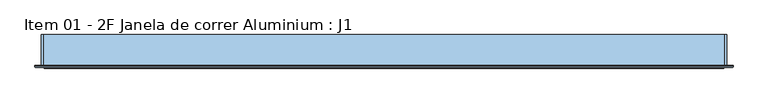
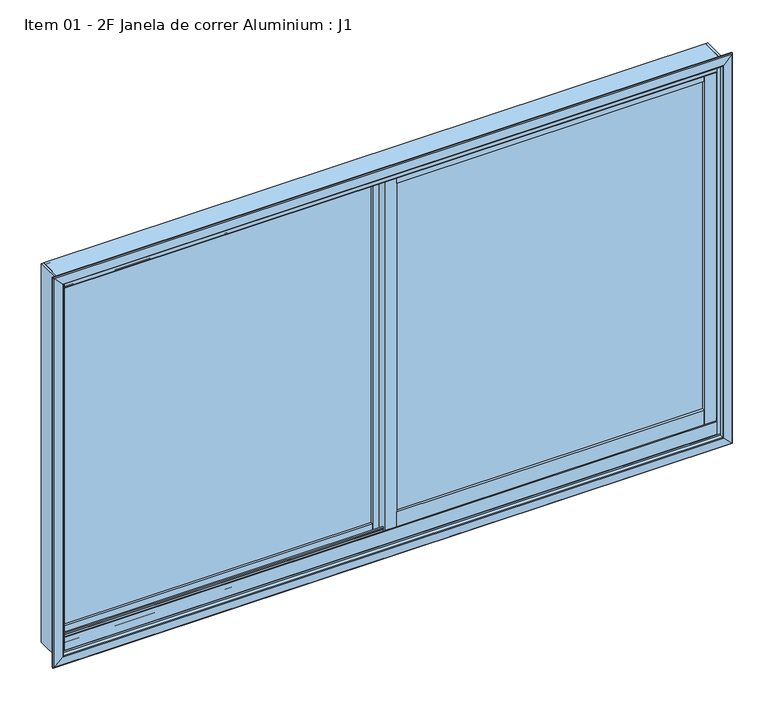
"""IFC4 building model written with IfcOpenShell, lengths in millimetres: window geometry, Item 01 - 2F Janela de correr Aluminium : J1."""

from ifc_helpers import new_model, si_unit, frame, origin, place, context, project, spatial, polyline, circle_curve, ellipse_curve, outline, extrude, source, transform, mapped, element, save
from ifc_brep_helpers import plane_surface, cylinder_surface, revolved_surface, advanced_brep


def item_01_2f_janela_de_correr_aluminium_j1_7eaab267(model_context):
    return source(origin(), model_context, "Body", "SolidModel", [
        extrude(outline(polyline([(-27.3998339, -35.3), (-27.3998339, -39.3), (-954.750983, -39.3), (-954.750983, -35.3), (-27.3998339, -35.3)])), frame((0.0, 0.0, 857.0), z_axis=(0.0, 0.0, 1.0), x_axis=(1.0, 0.0, 0.0)), (0.0, 0.0, 1.0), 1080.5),
        extrude(outline(polyline([(27.2998339, -70.9), (27.2998339, -66.9), (948.868646, -66.9), (948.868646, -70.9), (27.2998339, -70.9)])), frame((0.0, 0.0, 895.5), z_axis=(0.0, 0.0, 1.0), x_axis=(1.0, 0.0, 0.0)), (0.0, 0.0, 1.0), 1042.0),
        extrude(outline(polyline([(948.868646, -58.9), (948.868646, -78.9), (27.2998339, -78.9), (27.2998339, -58.9), (948.868646, -58.9)])), frame((0.0, 0.0, 847.9996573), z_axis=(0.0, 0.0, 1.0), x_axis=(1.0, 0.0, 0.0)), (0.0, 0.0, 1.0), 47.5003427),
        extrude(outline(polyline([(948.868646, -58.9), (948.868646, -78.9), (27.2998339, -78.9), (27.2998339, -58.9), (948.868646, -58.9)])), frame((0.0, 0.0, 1937.4996573), z_axis=(0.0, 0.0, 1.0), x_axis=(1.0, 0.0, 0.0)), (0.0, 0.0, 1.0), 34.5),
        extrude(outline(polyline([(-27.3998339, -27.3), (-27.3998339, -47.3), (-954.750983, -47.3), (-954.750983, -27.3), (-27.3998339, -27.3)])), frame((0.0, 0.0, 821.0), z_axis=(0.0, 0.0, 1.0), x_axis=(1.0, 0.0, 0.0)), (0.0, 0.0, 1.0), 36.0),
        extrude(outline(polyline([(-27.3998339, -27.3), (-27.3998339, -47.3), (-954.750983, -47.3), (-954.750983, -27.3), (-27.3998339, -27.3)])), frame((0.0, 0.0, 1937.5), z_axis=(0.0, 0.0, 1.0), x_axis=(1.0, 0.0, 0.0)), (0.0, 0.0, 1.0), 34.5),
        extrude(outline(polyline([(-954.750983, -47.3), (-993.0, -47.3), (-993.0, -27.3), (-954.750983, -27.3), (-954.750983, -47.3)])), frame((0.0, 0.0, 821.0), z_axis=(0.0, 0.0, 1.0), x_axis=(1.0, 0.0, 0.0)), (0.0, 0.0, 1.0), 1151.0),
        extrude(outline(polyline([(-27.3998339, -47.3), (-27.3998339, -27.3), (7.6001661, -27.3), (7.6001661, -58.9), (27.2998339, -58.9), (27.2998339, -78.9), (-7.6001661, -78.9), (-7.6001661, -47.3), (-27.3998339, -47.3)])), frame((0.0, 0.0, 821.0), z_axis=(0.0, 0.0, 1.0), x_axis=(1.0, 0.0, 0.0)), (0.0, 0.0, 1.0), 1151.0),
        extrude(outline(polyline([(993.0, -78.9), (948.868646, -78.9), (948.868646, -58.9), (993.0, -58.9), (993.0, -78.9)])), frame((0.0, 0.0, 821.0), z_axis=(0.0, 0.0, 1.0), x_axis=(1.0, 0.0, 0.0)), (0.0, 0.0, 1.0), 1151.0),
        advanced_brep(
        [(-992.5998339, -16.4379035, 810.2470077), (-992.5998339, -16.4379035, 801.4000436), (-992.5998339, -11.399999, 801.4000436), (-992.5998339, -11.399999, 807.4000364), (-992.5998339, -10.0000007, 807.4000364), (-992.5998339, -10.0, 800.0), (-992.5998339, -100.0, 800.0), (-992.5998339, -100.0, 807.4000364), (-992.5998339, -98.6000017, 807.4000364), (-992.5998339, -98.6000017, 801.3999983), (-992.5998339, -93.6000077, 801.3999983), (-992.5998339, -93.6000077, 815.5000406), (-992.5998339, -91.9001002, 815.5000406), (-992.5998339, -91.9002002, 855.4959852), (-992.5998339, -88.9002108, 855.4999745), (-992.5998339, -88.9002039, 852.9999952), (-992.5998339, -90.5001025, 852.0762974), (-992.5998339, -90.4999102, 840.5017467), (-992.5998339, -89.5522917, 839.4937615), (-992.5998339, -67.5000392, 838.337999), (-992.5998339, -67.5000392, 852.496362), (-992.5998339, -69.7000484, 852.496362), (-992.5998339, -69.7000484, 848.6999865), (-992.5998339, -71.1007067, 848.6999865), (-992.5998339, -71.1007067, 852.4947997), (-992.5998339, -66.099933, 852.4947997), (-992.5998339, -66.099933, 838.2646991), (-992.5998339, -64.464205, 838.1789418), (-992.5998339, -60.731283, 834.861102), (-992.5998339, -57.3590937, 815.7367048), (-992.5998339, -54.9346709, 813.5917613), (-992.5998339, -39.4999651, 812.7828298), (-992.5998339, -39.4999651, 825.4891381), (-992.5998339, -34.4999947, 825.4999956), (-992.5998339, -34.4999711, 821.7000191), (-992.5998339, -35.8999694, 821.7000191), (-992.5998339, -35.8999694, 825.4963945), (-992.5998339, -38.0999825, 825.4963945), (-992.5998339, -38.0999825, 812.7095299), (-992.5998339, -17.7702407, 811.6448774), (992.5998339, -16.4379035, 810.2470077), (992.5998339, -16.4379035, 801.4000436), (992.5998339, -11.399999, 801.4000436), (992.5998339, -11.399999, 807.4000364), (992.5998339, -10.0000007, 807.4000364), (992.5998339, -10.0, 800.0), (992.5998339, -100.0, 800.0), (992.5998339, -100.0, 807.4000364), (992.5998339, -98.6000017, 807.4000364), (992.5998339, -98.6000017, 801.3999983), (992.5998339, -93.6000077, 801.3999983), (992.5998339, -93.6000077, 815.5000406), (992.5998339, -91.9001002, 815.5000406), (992.5998339, -91.9002002, 855.4959852), (992.5998339, -88.9002108, 855.4999745), (992.5998339, -88.9002039, 852.9999952), (992.5998339, -90.5001025, 852.0762974), (992.5998339, -90.4999102, 840.5017467), (992.5998339, -89.5522917, 839.4937615), (992.5998339, -67.5000392, 838.337999), (992.5998339, -67.5000392, 852.496362), (992.5998339, -69.7000484, 852.496362), (992.5998339, -69.7000484, 848.6999865), (992.5998339, -71.1007067, 848.6999865), (992.5998339, -71.1007067, 852.4947997), (992.5998339, -66.099933, 852.4947997), (992.5998339, -66.099933, 838.2646991), (992.5998339, -64.464205, 838.1789418), (992.5998339, -60.731283, 834.861102), (992.5998339, -57.3590937, 815.7367048), (992.5998339, -54.9346709, 813.5917613), (992.5998339, -39.4999651, 812.7828298), (992.5998339, -39.4999651, 825.4891381), (992.5998339, -34.4999947, 825.4999956), (992.5998339, -34.4999711, 821.7000191), (992.5998339, -35.8999694, 821.7000191), (992.5998339, -35.8999694, 825.4963945), (992.5998339, -38.0999825, 825.4963945), (992.5998339, -38.0999825, 812.7095299), (992.5998339, -17.7702407, 811.6448774)],
        [
            (0, 1),
            (1, 2),
            (2, 3),
            (3, 4),
            (4, 5),
            (5, 6),
            (6, 7),
            (7, 8),
            (8, 9),
            (9, 10),
            (10, 11),
            (11, 12),
            (12, 13),
            (13, 14, circle_curve(frame((-992.5998339, -90.4002082, 855.4999743), z_axis=(-1.0, 0.0, 0.0), x_axis=(0.0, 0.0, 1.0)), 1.4999974)),
            (14, 15),
            (15, 16),
            (16, 17),
            (17, 18, circle_curve(frame((-992.5998339, -89.4999552, 840.4923898), z_axis=(1.0, 0.0, 0.0), x_axis=(0.0, 0.0, 1.0)), 0.9999988)),
            (18, 19),
            (19, 20),
            (20, 21, circle_curve(frame((-992.5998339, -68.6000438, 852.496362), z_axis=(1.0, 0.0, 0.0), x_axis=(0.0, 0.0, 1.0)), 1.1000046)),
            (21, 22),
            (22, 23, circle_curve(frame((-992.5998339, -70.4003775, 848.6999865), z_axis=(-1.0, 0.0, 0.0), x_axis=(0.0, 0.0, 1.0)), 0.7003292)),
            (23, 24),
            (24, 25, circle_curve(frame((-992.5998339, -68.6003199, 852.4947997), z_axis=(-1.0, 0.0, 0.0), x_axis=(0.0, 0.0, 1.0)), 2.5003869)),
            (25, 26),
            (26, 27),
            (27, 28, circle_curve(frame((-992.5998339, -64.6736275, 834.1844326), z_axis=(-1.0, 0.0, 0.0), x_axis=(0.0, 0.0, 1.0)), 3.9999952)),
            (28, 29),
            (29, 30, circle_curve(frame((-992.5998339, -54.7985976, 816.188195), z_axis=(1.0, 0.0, 0.0), x_axis=(0.0, 0.0, 1.0)), 2.5999969)),
            (30, 31),
            (31, 32),
            (32, 33, circle_curve(frame((-992.5998339, -36.9999917, 825.4999955), z_axis=(-1.0, 0.0, 0.0), x_axis=(0.0, 0.0, 1.0)), 2.499997)),
            (33, 34),
            (34, 35, circle_curve(frame((-992.5998339, -35.1999703, 821.7000191), z_axis=(-1.0, 0.0, 0.0), x_axis=(0.0, 0.0, 1.0)), 0.6999992)),
            (35, 36),
            (36, 37, circle_curve(frame((-992.5998339, -36.9999759, 825.4963945), z_axis=(1.0, 0.0, 0.0), x_axis=(0.0, 0.0, 1.0)), 1.1000065)),
            (37, 38),
            (38, 39),
            (39, 0, circle_curve(frame((-992.5998339, -17.8373848, 810.2470077), z_axis=(-1.0, 0.0, 0.0), x_axis=(0.0, 0.0, 1.0)), 1.3994814)),
            (0, 40),
            (40, 41),
            (41, 1),
            (41, 42),
            (42, 2),
            (42, 43),
            (43, 3),
            (43, 44),
            (44, 4),
            (44, 45),
            (45, 5),
            (45, 46),
            (46, 6),
            (46, 47),
            (47, 7),
            (47, 48),
            (48, 8),
            (48, 49),
            (49, 9),
            (49, 50),
            (50, 10),
            (50, 51),
            (51, 11),
            (51, 52),
            (52, 12),
            (52, 53),
            (53, 13),
            (53, 54, circle_curve(frame((992.5998339, -90.4002082, 855.4999743), z_axis=(-1.0, 0.0, 0.0), x_axis=(0.0, 0.0, 1.0)), 1.4999974)),
            (54, 14),
            (54, 55),
            (55, 15),
            (55, 56),
            (56, 16),
            (56, 57),
            (57, 17),
            (57, 58, circle_curve(frame((992.5998339, -89.4999552, 840.4923898), z_axis=(1.0, 0.0, 0.0), x_axis=(0.0, 0.0, 1.0)), 0.9999988)),
            (58, 18),
            (58, 59),
            (59, 19),
            (59, 60),
            (60, 20),
            (60, 61, circle_curve(frame((992.5998339, -68.6000438, 852.496362), z_axis=(1.0, 0.0, 0.0), x_axis=(0.0, 0.0, 1.0)), 1.1000046)),
            (61, 21),
            (61, 62),
            (62, 22),
            (62, 63, circle_curve(frame((992.5998339, -70.4003775, 848.6999865), z_axis=(-1.0, 0.0, 0.0), x_axis=(0.0, 0.0, 1.0)), 0.7003292)),
            (63, 23),
            (63, 64),
            (64, 24),
            (64, 65, circle_curve(frame((992.5998339, -68.6003199, 852.4947997), z_axis=(-1.0, 0.0, 0.0), x_axis=(0.0, 0.0, 1.0)), 2.5003869)),
            (65, 25),
            (65, 66),
            (66, 26),
            (66, 67),
            (67, 27),
            (67, 68, circle_curve(frame((992.5998339, -64.6736275, 834.1844326), z_axis=(-1.0, 0.0, 0.0), x_axis=(0.0, 0.0, 1.0)), 3.9999952)),
            (68, 28),
            (68, 69),
            (69, 29),
            (69, 70, circle_curve(frame((992.5998339, -54.7985976, 816.188195), z_axis=(1.0, 0.0, 0.0), x_axis=(0.0, 0.0, 1.0)), 2.5999969)),
            (70, 30),
            (70, 71),
            (71, 31),
            (71, 72),
            (72, 32),
            (72, 73, circle_curve(frame((992.5998339, -36.9999917, 825.4999955), z_axis=(-1.0, 0.0, 0.0), x_axis=(0.0, 0.0, 1.0)), 2.499997)),
            (73, 33),
            (73, 74),
            (74, 34),
            (74, 75, circle_curve(frame((992.5998339, -35.1999703, 821.7000191), z_axis=(-1.0, 0.0, 0.0), x_axis=(0.0, 0.0, 1.0)), 0.6999992)),
            (75, 35),
            (75, 76),
            (76, 36),
            (76, 77, circle_curve(frame((992.5998339, -36.9999759, 825.4963945), z_axis=(1.0, 0.0, 0.0), x_axis=(0.0, 0.0, 1.0)), 1.1000065)),
            (77, 37),
            (77, 78),
            (78, 38),
            (78, 79),
            (79, 39),
            (79, 40, circle_curve(frame((992.5998339, -17.8373848, 810.2470077), z_axis=(-1.0, 0.0, 0.0), x_axis=(0.0, 0.0, 1.0)), 1.3994814)),
        ],
        [
            plane_surface(frame((-992.5998339, -100.0, 2000.0), z_axis=(-1.0, 0.0, 0.0), x_axis=(0.0, -1.0, 0.0))),
            plane_surface(frame((-992.5998339, -16.4379035, 810.2470077), z_axis=(0.0, 1.0, 0.0), x_axis=(1.0, 0.0, 0.0))),
            plane_surface(frame((-992.5998339, -16.4379035, 801.4000436), z_axis=(0.0, 0.0, 1.0), x_axis=(1.0, 0.0, 0.0))),
            plane_surface(frame((-992.5998339, -11.399999, 801.4000436), z_axis=(0.0, -1.0, 0.0), x_axis=(1.0, 0.0, 0.0))),
            plane_surface(frame((-992.5998339, -11.399999, 807.4000364), z_axis=(0.0, 0.0, 1.0), x_axis=(1.0, 0.0, 0.0))),
            plane_surface(frame((-992.5998339, -10.0000007, 807.4000364), z_axis=(0.0, 0.999999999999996, 9.01305508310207e-08), x_axis=(1.0, 0.0, 0.0))),
            plane_surface(frame((-992.5998339, -10.0, 800.0), z_axis=(0.0, 0.0, -1.0), x_axis=(1.0, 0.0, 0.0))),
            plane_surface(frame((-992.5998339, -100.0, 800.0), z_axis=(0.0, -1.0, 0.0), x_axis=(1.0, 0.0, 0.0))),
            plane_surface(frame((-992.5998339, -100.0, 807.4000364), z_axis=(0.0, 0.0, 1.0), x_axis=(1.0, 0.0, 0.0))),
            plane_surface(frame((-992.5998339, -98.6000017, 807.4000364), z_axis=(0.0, 1.0, 0.0), x_axis=(1.0, 0.0, 0.0))),
            plane_surface(frame((-992.5998339, -98.6000017, 801.3999983), z_axis=(0.0, 0.0, 1.0), x_axis=(1.0, 0.0, 0.0))),
            plane_surface(frame((-992.5998339, -93.6000077, 801.3999983), z_axis=(0.0, -1.0, 0.0), x_axis=(1.0, 0.0, 0.0))),
            plane_surface(frame((-992.5998339, -93.6000077, 815.5000406), z_axis=(0.0, 0.0, 1.0), x_axis=(1.0, 0.0, 0.0))),
            plane_surface(frame((-992.5998339, -91.9001002, 815.5000406), z_axis=(0.0, -0.999999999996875, -2.5000000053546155e-06), x_axis=(1.0, 0.0, 0.0))),
            cylinder_surface(frame((-992.5998339, -90.4002082, 855.4999743), z_axis=(-1.0, 0.0, 0.0), x_axis=(0.0, 0.0, 1.0)), 1.4999974),
            plane_surface(frame((-992.5998339, -88.9002039, 855.4999927), z_axis=(0.0, 1.0, 0.0), x_axis=(1.0, 0.0, 0.0))),
            plane_surface(frame((-992.5998339, -88.9002039, 852.9999952), z_axis=(0.0, 0.4999983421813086, -0.8660263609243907), x_axis=(1.0, 0.0, 0.0))),
            plane_surface(frame((-992.5998339, -90.5001025, 852.0762974), z_axis=(0.0, 0.9999999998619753, 1.661473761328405e-05), x_axis=(1.0, 0.0, 0.0))),
            revolved_surface(polyline([(992.5998339, -89.4999552, 841.4923885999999), (-992.5998339, -89.4999552, 841.4923885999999)]), (-992.5998339, -89.4999552, 840.4923898), (1.0, 0.0, 0.0)),
            plane_surface(frame((-992.5998339, -89.5523119, 839.493712), z_axis=(0.0, 0.05233606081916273, 0.998629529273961), x_axis=(1.0, 0.0, 0.0))),
            plane_surface(frame((-992.5998339, -67.5000392, 838.337999), z_axis=(0.0, -1.0, 0.0), x_axis=(1.0, 0.0, 0.0))),
            revolved_surface(polyline([(992.5998339, -68.6000438, 853.5963666), (-992.5998339, -68.6000438, 853.5963666)]), (-992.5998339, -68.6000438, 852.496362), (1.0, 0.0, 0.0)),
            plane_surface(frame((-992.5998339, -69.7000484, 852.496362), z_axis=(0.0, 1.0, 0.0), x_axis=(1.0, 0.0, 0.0))),
            cylinder_surface(frame((-992.5998339, -70.4003775, 848.6999865), z_axis=(-1.0, 0.0, 0.0), x_axis=(0.0, 0.0, 1.0)), 0.7003292),
            plane_surface(frame((-992.5998339, -71.1007067, 848.6999865), z_axis=(0.0, -1.0, 0.0), x_axis=(1.0, 0.0, 0.0))),
            cylinder_surface(frame((-992.5998339, -68.6003199, 852.4947997), z_axis=(-1.0, 0.0, 0.0), x_axis=(0.0, 0.0, 1.0)), 2.5003869),
            plane_surface(frame((-992.5998339, -66.099933, 852.4947997), z_axis=(0.0, 1.0, 0.0), x_axis=(1.0, 0.0, 0.0))),
            plane_surface(frame((-992.5998339, -66.099933, 838.2646991), z_axis=(0.0, 0.05235569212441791, 0.998628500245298), x_axis=(1.0, 0.0, 0.0))),
            cylinder_surface(frame((-992.5998339, -64.6736275, 834.1844326), z_axis=(-1.0, 0.0, 0.0), x_axis=(0.0, 0.0, 1.0)), 3.9999952),
            plane_surface(frame((-992.5998339, -60.731283, 834.861102), z_axis=(0.0, 0.9848073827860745, 0.1736502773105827), x_axis=(1.0, 0.0, 0.0))),
            revolved_surface(polyline([(992.5998339, -54.7985976, 818.7881918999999), (-992.5998339, -54.7985976, 818.7881918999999)]), (-992.5998339, -54.7985976, 816.188195), (1.0, 0.0, 0.0)),
            plane_surface(frame((-992.5998339, -54.9346464, 813.5917288), z_axis=(0.0, 0.05233606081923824, 0.9986295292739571), x_axis=(1.0, 0.0, 0.0))),
            plane_surface(frame((-992.5998339, -39.4999651, 812.7828298), z_axis=(0.0, -1.0, 0.0), x_axis=(1.0, 0.0, 0.0))),
            cylinder_surface(frame((-992.5998339, -36.9999917, 825.4999955), z_axis=(-1.0, 0.0, 0.0), x_axis=(0.0, 0.0, 1.0)), 2.499997),
            plane_surface(frame((-992.5998339, -34.4999711, 825.5000145), z_axis=(0.0, 1.0, 0.0), x_axis=(1.0, 0.0, 0.0))),
            cylinder_surface(frame((-992.5998339, -35.1999703, 821.7000191), z_axis=(-1.0, 0.0, 0.0), x_axis=(0.0, 0.0, 1.0)), 0.6999992),
            plane_surface(frame((-992.5998339, -35.8999694, 821.7000191), z_axis=(0.0, -1.0, 0.0), x_axis=(1.0, 0.0, 0.0))),
            revolved_surface(polyline([(992.5998339, -36.9999759, 826.5964009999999), (-992.5998339, -36.9999759, 826.5964009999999)]), (-992.5998339, -36.9999759, 825.4963945), (1.0, 0.0, 0.0)),
            plane_surface(frame((-992.5998339, -38.0999825, 825.4963945), z_axis=(0.0, 1.0, 0.0), x_axis=(1.0, 0.0, 0.0))),
            plane_surface(frame((-992.5998339, -38.0999825, 812.7095299), z_axis=(0.0, 0.05229754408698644, 0.9986315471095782), x_axis=(1.0, 0.0, 0.0))),
            cylinder_surface(frame((-992.5998339, -17.8373848, 810.2470077), z_axis=(-1.0, 0.0, 0.0), x_axis=(0.0, 0.0, 1.0)), 1.3994814),
            plane_surface(frame((992.5998339, -100.0, 2000.0), z_axis=(1.0, 0.0, 0.0), x_axis=(0.0, -1.0, 0.0))),
        ],
        [
            (0, [[1, 2, 3, 4, 5, 6, 7, 8, 9, 10, 11, 12, 13, 14, 15, 16, 17, 18, 19, 20, 21, 22, 23, 24, 25, 26, 27, 28, 29, 30, 31, 32, 33, 34, 35, 36, 37, 38, 39, 40]]),
            (1, [[-1, 41, 42, 43]]),
            (2, [[-2, -43, 44, 45]]),
            (3, [[-3, -45, 46, 47]]),
            (4, [[-4, -47, 48, 49]]),
            (5, [[-5, -49, 50, 51]]),
            (6, [[-6, -51, 52, 53]]),
            (7, [[-7, -53, 54, 55]]),
            (8, [[-8, -55, 56, 57]]),
            (9, [[-9, -57, 58, 59]]),
            (10, [[-10, -59, 60, 61]]),
            (11, [[-11, -61, 62, 63]]),
            (12, [[-12, -63, 64, 65]]),
            (13, [[-13, -65, 66, 67]]),
            (14, [[-14, -67, 68, 69]]),
            (15, [[-15, -69, 70, 71]]),
            (16, [[-16, -71, 72, 73]]),
            (17, [[-17, -73, 74, 75]]),
            (18, [[-18, -75, 76, 77]]),
            (19, [[-19, -77, 78, 79]]),
            (20, [[-20, -79, 80, 81]]),
            (21, [[-21, -81, 82, 83]]),
            (22, [[-22, -83, 84, 85]]),
            (23, [[-23, -85, 86, 87]]),
            (24, [[-24, -87, 88, 89]]),
            (25, [[-25, -89, 90, 91]]),
            (26, [[-26, -91, 92, 93]]),
            (27, [[-27, -93, 94, 95]]),
            (28, [[-28, -95, 96, 97]]),
            (29, [[-29, -97, 98, 99]]),
            (30, [[-30, -99, 100, 101]]),
            (31, [[-31, -101, 102, 103]]),
            (32, [[-32, -103, 104, 105]]),
            (33, [[-33, -105, 106, 107]]),
            (34, [[-34, -107, 108, 109]]),
            (35, [[-35, -109, 110, 111]]),
            (36, [[-36, -111, 112, 113]]),
            (37, [[-37, -113, 114, 115]]),
            (38, [[-38, -115, 116, 117]]),
            (39, [[-39, -117, 118, 119]]),
            (40, [[-40, -119, 120, -41]]),
            (41, [[-120, -118, -116, -114, -112, -110, -108, -106, -104, -102, -100, -98, -96, -94, -92, -90, -88, -86, -84, -82, -80, -78, -76, -74, -72, -70, -68, -66, -64, -62, -60, -58, -56, -54, -52, -50, -48, -46, -44, -42]]),
        ],
    ),
        advanced_brep(
        [(-992.5998339, -91.8990741, 1965.5), (-992.5998339, -91.8990741, 1984.5), (-992.5998339, -93.5994745, 1984.5), (-992.5998339, -93.5994745, 1998.6), (-992.5998339, -98.5994745, 1998.6), (-992.5998339, -98.5994745, 1992.6), (-992.5998339, -99.9994395, 1992.6), (-992.5998339, -99.9994395, 2000.0), (-992.5998339, -9.9994395, 2000.0), (-992.5998339, -9.9994395, 1992.6), (-992.5998339, -11.3994545, 1992.6), (-992.5998339, -11.3994545, 1998.6), (-992.5998339, -16.3994545, 1998.6), (-992.5998339, -16.3994545, 1984.5), (-992.5998339, -18.0994395, 1984.5), (-992.5998339, -18.0994395, 1961.0), (-992.5998339, -19.4994395, 1960.0834849), (-992.5998339, -19.4994395, 1984.5), (-992.5998339, -38.0994395, 1984.5), (-992.5998339, -38.0994395, 1966.4999475), (-992.5998339, -35.8994395, 1966.4999475), (-992.5998339, -35.8994395, 1970.298754), (-992.5998339, -34.4986209, 1970.298754), (-992.5998339, -34.4986209, 1966.4999475), (-992.5998339, -39.5002581, 1966.4999475), (-992.5998339, -39.5002581, 1984.5), (-992.5998339, -66.0986209, 1984.5), (-992.5998339, -66.0986209, 1966.499981), (-992.5998339, -71.1002581, 1966.499981), (-992.5998339, -71.1002581, 1970.2997289), (-992.5998339, -69.6994395, 1970.2997289), (-992.5998339, -69.6994395, 1966.499981), (-992.5998339, -67.4994395, 1966.499981), (-992.5998339, -67.4994395, 1984.5), (-992.5998339, -90.4994049, 1984.5), (-992.5998339, -90.4994049, 1968.9237013), (-992.5998339, -88.8998049, 1968.0002013), (-992.5998339, -88.8998049, 1965.5), (992.5998339, -91.8990741, 1965.5), (992.5998339, -88.8998049, 1965.5), (992.5998339, -88.8998049, 1968.0002013), (992.5998339, -90.4994049, 1968.9237013), (992.5998339, -90.4994049, 1984.5), (992.5998339, -67.4994395, 1984.5), (992.5998339, -67.4994395, 1966.499981), (992.5998339, -69.6994395, 1966.499981), (992.5998339, -69.6994395, 1970.2997289), (992.5998339, -71.1002581, 1970.2997289), (992.5998339, -71.1002581, 1966.499981), (992.5998339, -66.0986209, 1966.499981), (992.5998339, -66.0986209, 1984.5), (992.5998339, -39.5002581, 1984.5), (992.5998339, -39.5002581, 1966.4999475), (992.5998339, -34.4986209, 1966.4999475), (992.5998339, -34.4986209, 1970.298754), (992.5998339, -35.8994395, 1970.298754), (992.5998339, -35.8994395, 1966.4999475), (992.5998339, -38.0994395, 1966.4999475), (992.5998339, -38.0994395, 1984.5), (992.5998339, -19.4994395, 1984.5), (992.5998339, -19.4994395, 1960.0834849), (992.5998339, -18.0994395, 1961.0), (992.5998339, -18.0994395, 1984.5), (992.5998339, -16.3994545, 1984.5), (992.5998339, -16.3994545, 1998.6), (992.5998339, -11.3994545, 1998.6), (992.5998339, -11.3994545, 1992.6), (992.5998339, -9.9994395, 1992.6), (992.5998339, -9.9994395, 2000.0), (992.5998339, -99.9994395, 2000.0), (992.5998339, -99.9994395, 1992.6), (992.5998339, -98.5994745, 1992.6), (992.5998339, -98.5994745, 1998.6), (992.5998339, -93.5994745, 1998.6), (992.5998339, -93.5994745, 1984.5), (992.5998339, -91.8990741, 1984.5)],
        [
            (0, 1),
            (1, 2),
            (2, 3),
            (3, 4),
            (4, 5),
            (5, 6),
            (6, 7),
            (7, 8),
            (8, 9),
            (9, 10),
            (10, 11),
            (11, 12),
            (12, 13),
            (13, 14),
            (14, 15),
            (15, 16, circle_curve(frame((-992.5998339, -19.0994395, 1961.0), z_axis=(-1.0, 0.0, 0.0), x_axis=(0.0, 0.0, 1.0)), 1.0)),
            (16, 17),
            (17, 18),
            (18, 19),
            (19, 20, circle_curve(frame((-992.5998339, -36.9994395, 1966.4999475), z_axis=(1.0, 0.0, 0.0), x_axis=(0.0, 0.0, 1.0)), 1.1)),
            (20, 21),
            (21, 22, circle_curve(frame((-992.5998339, -35.1990302, 1970.298754), z_axis=(-1.0, 0.0, 0.0), x_axis=(0.0, 0.0, 1.0)), 0.7004093)),
            (22, 23),
            (23, 24, circle_curve(frame((-992.5998339, -36.9994395, 1966.4999475), z_axis=(-1.0, 0.0, 0.0), x_axis=(0.0, 0.0, 1.0)), 2.5008186)),
            (24, 25),
            (25, 26),
            (26, 27),
            (27, 28, circle_curve(frame((-992.5998339, -68.5994395, 1966.499981), z_axis=(-1.0, 0.0, 0.0), x_axis=(0.0, 0.0, 1.0)), 2.5008186)),
            (28, 29),
            (29, 30, circle_curve(frame((-992.5998339, -70.3998488, 1970.2997289), z_axis=(-1.0, 0.0, 0.0), x_axis=(0.0, 0.0, 1.0)), 0.7004093)),
            (30, 31),
            (31, 32, circle_curve(frame((-992.5998339, -68.5994395, 1966.499981), z_axis=(1.0, 0.0, 0.0), x_axis=(0.0, 0.0, 1.0)), 1.1)),
            (32, 33),
            (33, 34),
            (34, 35),
            (35, 36),
            (36, 37),
            (37, 0, circle_curve(frame((-992.5998339, -90.3994395, 1965.5), z_axis=(-1.0, 0.0, 0.0), x_axis=(0.0, 0.0, 1.0)), 1.4996346)),
            (38, 39, circle_curve(frame((992.5998339, -90.3994395, 1965.5), z_axis=(1.0, 0.0, 0.0), x_axis=(0.0, 0.0, 1.0)), 1.4996346)),
            (39, 40),
            (40, 41),
            (41, 42),
            (42, 43),
            (43, 44),
            (44, 45, circle_curve(frame((992.5998339, -68.5994395, 1966.499981), z_axis=(-1.0, 0.0, 0.0), x_axis=(0.0, 0.0, 1.0)), 1.1)),
            (45, 46),
            (46, 47, circle_curve(frame((992.5998339, -70.3998488, 1970.2997289), z_axis=(1.0, 0.0, 0.0), x_axis=(0.0, 0.0, 1.0)), 0.7004093)),
            (47, 48),
            (48, 49, circle_curve(frame((992.5998339, -68.5994395, 1966.499981), z_axis=(1.0, 0.0, 0.0), x_axis=(0.0, 0.0, 1.0)), 2.5008186)),
            (49, 50),
            (50, 51),
            (51, 52),
            (52, 53, circle_curve(frame((992.5998339, -36.9994395, 1966.4999475), z_axis=(1.0, 0.0, 0.0), x_axis=(0.0, 0.0, 1.0)), 2.5008186)),
            (53, 54),
            (54, 55, circle_curve(frame((992.5998339, -35.1990302, 1970.298754), z_axis=(1.0, 0.0, 0.0), x_axis=(0.0, 0.0, 1.0)), 0.7004093)),
            (55, 56),
            (56, 57, circle_curve(frame((992.5998339, -36.9994395, 1966.4999475), z_axis=(-1.0, 0.0, 0.0), x_axis=(0.0, 0.0, 1.0)), 1.1)),
            (57, 58),
            (58, 59),
            (59, 60),
            (60, 61, circle_curve(frame((992.5998339, -19.0994395, 1961.0), z_axis=(1.0, 0.0, 0.0), x_axis=(0.0, 0.0, 1.0)), 1.0)),
            (61, 62),
            (62, 63),
            (63, 64),
            (64, 65),
            (65, 66),
            (66, 67),
            (67, 68),
            (68, 69),
            (69, 70),
            (70, 71),
            (71, 72),
            (72, 73),
            (73, 74),
            (74, 75),
            (75, 38),
            (0, 38),
            (75, 1),
            (74, 2),
            (73, 3),
            (72, 4),
            (71, 5),
            (70, 6),
            (69, 7),
            (68, 8),
            (67, 9),
            (66, 10),
            (65, 11),
            (64, 12),
            (63, 13),
            (62, 14),
            (61, 15),
            (60, 16),
            (59, 17),
            (58, 18),
            (57, 19),
            (56, 20),
            (55, 21),
            (54, 22),
            (53, 23),
            (52, 24),
            (51, 25),
            (50, 26),
            (49, 27),
            (48, 28),
            (47, 29),
            (46, 30),
            (45, 31),
            (44, 32),
            (43, 33),
            (42, 34),
            (41, 35),
            (40, 36),
            (39, 37),
        ],
        [
            plane_surface(frame((-992.5998339, -100.0, 2000.0), z_axis=(-1.0, 0.0, 0.0), x_axis=(0.0, -1.0, 0.0))),
            plane_surface(frame((992.5998339, -100.0, 2000.0), z_axis=(1.0, 0.0, 0.0), x_axis=(0.0, -1.0, 0.0))),
            plane_surface(frame((-992.5998339, -91.8990741, 1965.5), z_axis=(0.0, -1.0, 0.0), x_axis=(1.0, 0.0, 0.0))),
            plane_surface(frame((-992.5998339, -91.8990741, 1984.5), z_axis=(0.0, 0.0, -1.0), x_axis=(1.0, 0.0, 0.0))),
            plane_surface(frame((-992.5998339, -93.5994745, 1984.5), z_axis=(0.0, -1.0, 0.0), x_axis=(1.0, 0.0, 0.0))),
            plane_surface(frame((-992.5998339, -93.5994745, 1998.6), z_axis=(0.0, 0.0, -1.0), x_axis=(1.0, 0.0, 0.0))),
            plane_surface(frame((-992.5998339, -98.5994745, 1998.6), z_axis=(0.0, 1.0, 0.0), x_axis=(1.0, 0.0, 0.0))),
            plane_surface(frame((-992.5998339, -98.5994745, 1992.6), z_axis=(0.0, 0.0, -1.0), x_axis=(1.0, 0.0, 0.0))),
            plane_surface(frame((-992.5998339, -99.9994395, 1992.6), z_axis=(0.0, -1.0, 0.0), x_axis=(1.0, 0.0, 0.0))),
            plane_surface(frame((-992.5998339, -99.9994395, 2000.0), z_axis=(0.0, 0.0, 1.0), x_axis=(1.0, 0.0, 0.0))),
            plane_surface(frame((-992.5998339, -9.9994395, 2000.0), z_axis=(0.0, 1.0, 0.0), x_axis=(1.0, 0.0, 0.0))),
            plane_surface(frame((-992.5998339, -9.9994395, 1992.6), z_axis=(0.0, 0.0, -1.0), x_axis=(1.0, 0.0, 0.0))),
            plane_surface(frame((-992.5998339, -11.3994545, 1992.6), z_axis=(0.0, -1.0, 0.0), x_axis=(1.0, 0.0, 0.0))),
            plane_surface(frame((-992.5998339, -11.3994545, 1998.6), z_axis=(0.0, 0.0, -1.0), x_axis=(1.0, 0.0, 0.0))),
            plane_surface(frame((-992.5998339, -16.3994545, 1998.6), z_axis=(0.0, 1.0, 0.0), x_axis=(1.0, 0.0, 0.0))),
            plane_surface(frame((-992.5998339, -16.3994545, 1984.5), z_axis=(0.0, 0.0, -1.0), x_axis=(1.0, 0.0, 0.0))),
            plane_surface(frame((-992.5998339, -18.0994395, 1984.5), z_axis=(0.0, 1.0, 0.0), x_axis=(1.0, 0.0, 0.0))),
            cylinder_surface(frame((-992.5998339, -19.0994395, 1961.0), z_axis=(-1.0, 0.0, 0.0), x_axis=(0.0, 0.0, 1.0)), 1.0),
            plane_surface(frame((-992.5998339, -19.4994395, 1960.0834849), z_axis=(0.0, -1.0, 0.0), x_axis=(1.0, 0.0, 0.0))),
            plane_surface(frame((-992.5998339, -19.4994395, 1984.5), z_axis=(0.0, 0.0, -1.0), x_axis=(1.0, 0.0, 0.0))),
            plane_surface(frame((-992.5998339, -38.0994395, 1984.5), z_axis=(0.0, 1.0, 0.0), x_axis=(1.0, 0.0, 0.0))),
            revolved_surface(polyline([(992.5998339, -36.9994395, 1967.5999474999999), (-992.5998339, -36.9994395, 1967.5999474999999)]), (-992.5998339, -36.9994395, 1966.4999475), (1.0, 0.0, 0.0)),
            plane_surface(frame((-992.5998339, -35.8994395, 1966.4999475), z_axis=(0.0, -1.0, 0.0), x_axis=(1.0, 0.0, 0.0))),
            cylinder_surface(frame((-992.5998339, -35.1990302, 1970.298754), z_axis=(-1.0, 0.0, 0.0), x_axis=(0.0, 0.0, 1.0)), 0.7004093),
            plane_surface(frame((-992.5998339, -34.4986209, 1970.298754), z_axis=(0.0, 1.0, 0.0), x_axis=(1.0, 0.0, 0.0))),
            cylinder_surface(frame((-992.5998339, -36.9994395, 1966.4999475), z_axis=(-1.0, 0.0, 0.0), x_axis=(0.0, 0.0, 1.0)), 2.5008186),
            plane_surface(frame((-992.5998339, -39.5002581, 1966.4999475), z_axis=(0.0, -1.0, 0.0), x_axis=(1.0, 0.0, 0.0))),
            plane_surface(frame((-992.5998339, -39.5002581, 1984.5), z_axis=(0.0, 0.0, -1.0), x_axis=(1.0, 0.0, 0.0))),
            plane_surface(frame((-992.5998339, -66.0986209, 1984.5), z_axis=(0.0, 1.0, 0.0), x_axis=(1.0, 0.0, 0.0))),
            cylinder_surface(frame((-992.5998339, -68.5994395, 1966.499981), z_axis=(-1.0, 0.0, 0.0), x_axis=(0.0, 0.0, 1.0)), 2.5008186),
            plane_surface(frame((-992.5998339, -71.1002581, 1966.499981), z_axis=(0.0, -1.0, 0.0), x_axis=(1.0, 0.0, 0.0))),
            cylinder_surface(frame((-992.5998339, -70.3998488, 1970.2997289), z_axis=(-1.0, 0.0, 0.0), x_axis=(0.0, 0.0, 1.0)), 0.7004093),
            plane_surface(frame((-992.5998339, -69.6994395, 1970.2997289), z_axis=(0.0, 1.0, 0.0), x_axis=(1.0, 0.0, 0.0))),
            revolved_surface(polyline([(992.5998339, -68.5994395, 1967.5999809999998), (-992.5998339, -68.5994395, 1967.5999809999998)]), (-992.5998339, -68.5994395, 1966.499981), (1.0, 0.0, 0.0)),
            plane_surface(frame((-992.5998339, -67.4994395, 1966.499981), z_axis=(0.0, -1.0, 0.0), x_axis=(1.0, 0.0, 0.0))),
            plane_surface(frame((-992.5998339, -67.4994395, 1984.5), z_axis=(0.0, 0.0, -1.0), x_axis=(1.0, 0.0, 0.0))),
            plane_surface(frame((-992.5998339, -90.4994049, 1984.5), z_axis=(0.0, 1.0, 0.0), x_axis=(1.0, 0.0, 0.0))),
            plane_surface(frame((-992.5998339, -90.4994049, 1968.9237013), z_axis=(0.0, 0.49998802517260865, 0.8660323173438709), x_axis=(1.0, 0.0, 0.0))),
            plane_surface(frame((-992.5998339, -88.8998049, 1968.0002013), z_axis=(0.0, 1.0, 0.0), x_axis=(1.0, 0.0, 0.0))),
            cylinder_surface(frame((-992.5998339, -90.3994395, 1965.5), z_axis=(-1.0, 0.0, 0.0), x_axis=(0.0, 0.0, 1.0)), 1.4996346),
        ],
        [
            (0, [[1, 2, 3, 4, 5, 6, 7, 8, 9, 10, 11, 12, 13, 14, 15, 16, 17, 18, 19, 20, 21, 22, 23, 24, 25, 26, 27, 28, 29, 30, 31, 32, 33, 34, 35, 36, 37, 38]]),
            (1, [[39, 40, 41, 42, 43, 44, 45, 46, 47, 48, 49, 50, 51, 52, 53, 54, 55, 56, 57, 58, 59, 60, 61, 62, 63, 64, 65, 66, 67, 68, 69, 70, 71, 72, 73, 74, 75, 76]]),
            (2, [[-1, 77, -76, 78]]),
            (3, [[-2, -78, -75, 79]]),
            (4, [[-3, -79, -74, 80]]),
            (5, [[-4, -80, -73, 81]]),
            (6, [[-5, -81, -72, 82]]),
            (7, [[-6, -82, -71, 83]]),
            (8, [[-7, -83, -70, 84]]),
            (9, [[-8, -84, -69, 85]]),
            (10, [[-9, -85, -68, 86]]),
            (11, [[-10, -86, -67, 87]]),
            (12, [[-11, -87, -66, 88]]),
            (13, [[-12, -88, -65, 89]]),
            (14, [[-13, -89, -64, 90]]),
            (15, [[-14, -90, -63, 91]]),
            (16, [[-15, -91, -62, 92]]),
            (17, [[-16, -92, -61, 93]]),
            (18, [[-17, -93, -60, 94]]),
            (19, [[-18, -94, -59, 95]]),
            (20, [[-19, -95, -58, 96]]),
            (21, [[-20, -96, -57, 97]]),
            (22, [[-21, -97, -56, 98]]),
            (23, [[-22, -98, -55, 99]]),
            (24, [[-23, -99, -54, 100]]),
            (25, [[-24, -100, -53, 101]]),
            (26, [[-25, -101, -52, 102]]),
            (27, [[-26, -102, -51, 103]]),
            (28, [[-27, -103, -50, 104]]),
            (29, [[-28, -104, -49, 105]]),
            (30, [[-29, -105, -48, 106]]),
            (31, [[-30, -106, -47, 107]]),
            (32, [[-31, -107, -46, 108]]),
            (33, [[-32, -108, -45, 109]]),
            (34, [[-33, -109, -44, 110]]),
            (35, [[-34, -110, -43, 111]]),
            (36, [[-35, -111, -42, 112]]),
            (37, [[-36, -112, -41, 113]]),
            (38, [[-37, -113, -40, 114]]),
            (39, [[-38, -114, -39, -77]]),
        ],
    ),
        extrude(outline(polyline([(-1000.0, -100.0), (-1000.0, -9.9994395), (-992.5998339, -9.9994395), (-992.5998339, -16.3994395), (-979.5998339, -16.3994395), (-979.5998339, -17.7994397), (-992.5998339, -17.7994397), (-992.5998339, -92.1994395), (-979.5998339, -92.1994395), (-979.5998339, -93.5994395), (-992.5998339, -93.5994395), (-992.5998339, -100.0), (-1000.0, -100.0)])), frame((0.0, 0.0, 800.0), z_axis=(0.0, 0.0, 1.0), x_axis=(1.0, 0.0, 0.0)), (0.0, 0.0, 1.0), 1200.0),
        extrude(outline(polyline([(1000.0, -100.0), (992.5998339, -100.0), (992.5998339, -93.5994395), (979.5998339, -93.5994395), (979.5998339, -92.1994395), (992.5998339, -92.1994395), (992.5998339, -17.7994397), (979.5998339, -17.7994397), (979.5998339, -16.3994395), (992.5998339, -16.3994395), (992.5998339, -9.9994395), (1000.0, -9.9994395), (1000.0, -100.0)])), frame((0.0, 0.0, 800.0), z_axis=(0.0, 0.0, 1.0), x_axis=(1.0, 0.0, 0.0)), (0.0, 0.0, 1.0), 1200.0),
        advanced_brep(
        [(1016.6179787, -105.8032791, 783.3820213), (991.6179953, -107.990685, 808.3820047), (-991.6179953, -107.990685, 808.3820047), (-1016.6179787, -105.8032791, 783.3820213), (1018.9000454, -103.301595, 781.0999546), (-1018.9000454, -103.301595, 781.0999546), (1018.9000454, -100.0, 781.0999546), (-1018.9000454, -100.0, 781.0999546), (1017.8000705, -103.312794, 782.1999295), (1017.8000705, -100.0, 782.1999295), (-1017.8000705, -100.0, 782.1999295), (-1017.8000705, -103.312794, 782.1999295), (1016.5220991, -104.7074657, 783.4779009), (-1016.5220991, -104.7074657, 783.4779009), (991.5051608, -106.896355, 808.4948392), (-991.5051608, -106.896355, 808.4948392), (990.0000742, -105.5100572, 809.9999258), (-990.0000742, -105.5100572, 809.9999258), (990.0000742, -94.0002188, 809.9999258), (-990.0000742, -94.0002188, 809.9999258), (988.9000871, -105.5001999, 811.0999129), (988.9000871, -94.0002188, 811.0999129), (-988.9000871, -94.0002188, 811.0999129), (-988.9000871, -105.5001999, 811.0999129), (-991.6179953, -107.990685, 1991.6179953), (-1016.6179787, -105.8032791, 2016.6179787), (-1018.9000454, -103.301595, 2018.9000454), (-1018.9000454, -100.0, 2018.9000454), (-1017.8000705, -100.0, 2017.8000705), (-1017.8000705, -103.312794, 2017.8000705), (-1016.5220991, -104.7074657, 2016.5220991), (-991.5051608, -106.896355, 1991.5051608), (-990.0000742, -105.5100572, 1990.0000742), (-990.0000742, -94.0002188, 1990.0000742), (-988.9000871, -94.0002188, 1988.9000871), (-988.9000871, -105.5001999, 1988.9000871), (991.6179953, -107.990685, 1991.6179953), (1016.6179787, -105.8032791, 2016.6179787), (1018.9000454, -103.301595, 2018.9000454), (1018.9000454, -100.0, 2018.9000454), (1017.8000705, -100.0, 2017.8000705), (1017.8000705, -103.312794, 2017.8000705), (1016.5220991, -104.7074657, 2016.5220991), (991.5051608, -106.896355, 1991.5051608), (990.0000742, -105.5100572, 1990.0000742), (990.0000742, -94.0002188, 1990.0000742), (988.9000871, -94.0002188, 1988.9000871), (988.9000871, -105.5001999, 1988.9000871)],
        [
            (0, 1),
            (1, 2),
            (2, 3),
            (3, 0),
            (4, 0, ellipse_curve(frame((1016.4000705, -103.312794, 783.5999295), z_axis=(-0.7071067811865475, 0.0, -0.7071067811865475), x_axis=(0.7071067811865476, 0.0, -0.7071067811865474)), 3.5355339, 2.5)),
            (3, 5, ellipse_curve(frame((-1016.4000705, -103.312794, 783.5999295), z_axis=(0.7071067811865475, 0.0, -0.7071067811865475), x_axis=(0.7071067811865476, 0.0, 0.7071067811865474)), 3.5355339, 2.5)),
            (5, 4),
            (6, 4),
            (5, 7),
            (7, 6),
            (8, 9),
            (9, 10),
            (10, 11),
            (11, 8),
            (12, 8, ellipse_curve(frame((1016.4000705, -103.312794, 783.5999295), z_axis=(0.7071067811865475, 0.0, 0.7071067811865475), x_axis=(-0.7071067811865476, 0.0, 0.7071067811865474)), 1.979899, 1.4)),
            (11, 13, ellipse_curve(frame((-1016.4000705, -103.312794, 783.5999295), z_axis=(-0.7071067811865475, 0.0, 0.7071067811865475), x_axis=(-0.7071067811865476, 0.0, -0.7071067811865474)), 1.979899, 1.4)),
            (13, 12),
            (14, 12),
            (13, 15),
            (15, 14),
            (16, 14, ellipse_curve(frame((991.4000916, -105.5002514, 808.5999084), z_axis=(0.7071067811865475, 0.0, 0.7071067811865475), x_axis=(-0.7071067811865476, 0.0, 0.7071067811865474)), 1.9799721, 1.4000517)),
            (15, 17, ellipse_curve(frame((-991.4000916, -105.5002514, 808.5999084), z_axis=(-0.7071067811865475, 0.0, 0.7071067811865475), x_axis=(-0.7071067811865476, 0.0, -0.7071067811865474)), 1.9799721, 1.4000517)),
            (17, 16),
            (18, 16),
            (17, 19),
            (19, 18),
            (20, 21),
            (21, 22),
            (22, 23),
            (23, 20),
            (1, 20, ellipse_curve(frame((991.4000871, -105.5001999, 808.5999129), z_axis=(-0.7071067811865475, 0.0, -0.7071067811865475), x_axis=(0.7071067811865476, 0.0, -0.7071067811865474)), 3.5355339, 2.5)),
            (23, 2, ellipse_curve(frame((-991.4000871, -105.5001999, 808.5999129), z_axis=(0.7071067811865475, 0.0, -0.7071067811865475), x_axis=(0.7071067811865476, 0.0, 0.7071067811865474)), 3.5355339, 2.5)),
            (2, 24),
            (24, 25),
            (25, 3),
            (25, 26, ellipse_curve(frame((-1016.4000705, -103.312794, 2016.4000705), z_axis=(-0.7071067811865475, 0.0, -0.7071067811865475), x_axis=(0.7071067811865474, 0.0, -0.7071067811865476)), 3.5355339, 2.5)),
            (26, 5),
            (26, 27),
            (27, 7),
            (10, 28),
            (28, 29),
            (29, 11),
            (29, 30, ellipse_curve(frame((-1016.4000705, -103.312794, 2016.4000705), z_axis=(0.7071067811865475, 0.0, 0.7071067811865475), x_axis=(-0.7071067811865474, 0.0, 0.7071067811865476)), 1.979899, 1.4)),
            (30, 13),
            (30, 31),
            (31, 15),
            (31, 32, ellipse_curve(frame((-991.4000916, -105.5002514, 1991.4000916), z_axis=(0.7071067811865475, 0.0, 0.7071067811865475), x_axis=(-0.7071067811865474, 0.0, 0.7071067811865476)), 1.9799721, 1.4000517)),
            (32, 17),
            (32, 33),
            (33, 19),
            (22, 34),
            (34, 35),
            (35, 23),
            (35, 24, ellipse_curve(frame((-991.4000871, -105.5001999, 1991.4000871), z_axis=(-0.7071067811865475, 0.0, -0.7071067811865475), x_axis=(0.7071067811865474, 0.0, -0.7071067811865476)), 3.5355339, 2.5)),
            (24, 36),
            (36, 37),
            (37, 25),
            (37, 38, ellipse_curve(frame((1016.4000705, -103.312794, 2016.4000705), z_axis=(-0.7071067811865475, 0.0, 0.7071067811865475), x_axis=(-0.7071067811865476, 0.0, -0.7071067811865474)), 3.5355339, 2.5)),
            (38, 26),
            (38, 39),
            (39, 27),
            (28, 40),
            (40, 41),
            (41, 29),
            (41, 42, ellipse_curve(frame((1016.4000705, -103.312794, 2016.4000705), z_axis=(0.7071067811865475, 0.0, -0.7071067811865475), x_axis=(0.7071067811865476, 0.0, 0.7071067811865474)), 1.979899, 1.4)),
            (42, 30),
            (42, 43),
            (43, 31),
            (43, 44, ellipse_curve(frame((991.4000916, -105.5002514, 1991.4000916), z_axis=(0.7071067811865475, 0.0, -0.7071067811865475), x_axis=(0.7071067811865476, 0.0, 0.7071067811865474)), 1.9799721, 1.4000517)),
            (44, 32),
            (44, 45),
            (45, 33),
            (34, 46),
            (46, 47),
            (47, 35),
            (47, 36, ellipse_curve(frame((991.4000871, -105.5001999, 1991.4000871), z_axis=(-0.7071067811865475, 0.0, 0.7071067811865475), x_axis=(-0.7071067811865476, 0.0, -0.7071067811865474)), 3.5355339, 2.5)),
            (36, 1),
            (0, 37),
            (4, 38),
            (6, 39),
            (9, 40),
            (8, 41),
            (12, 42),
            (14, 43),
            (16, 44),
            (18, 45),
            (21, 46),
            (20, 47),
        ],
        [
            plane_surface(frame((991.6179953, -107.990685, 808.3820047), z_axis=(0.0, -0.9961940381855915, -0.08716328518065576), x_axis=(-1.0, 0.0, 0.0))),
            cylinder_surface(frame((1000.0, -103.312794, 783.5999295), z_axis=(1.0, 0.0, 0.0), x_axis=(0.0, 0.0, 1.0)), 2.5),
            plane_surface(frame((1018.9000454, -103.301595, 781.0999546), z_axis=(0.0, 0.0, -1.0), x_axis=(-1.0, 0.0, 0.0))),
            plane_surface(frame((1017.8000705, -100.0, 782.1999295), z_axis=(0.0, 0.0, 1.0), x_axis=(-1.0, 0.0, 0.0))),
            revolved_surface(polyline([(-1017.8000705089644, -103.312794, 784.9999295), (1017.8000705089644, -103.312794, 784.9999295)]), (1000.0, -103.312794, 783.5999295), (-1.0, 0.0, 0.0)),
            plane_surface(frame((1016.5220991, -104.7074657, 783.4779009), z_axis=(0.0, 0.9961940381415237, 0.08716328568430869), x_axis=(-1.0, 0.0, 0.0))),
            revolved_surface(polyline([(-992.8001432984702, -105.5002514, 809.9999601), (992.8001432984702, -105.5002514, 809.9999601)]), (1000.0, -105.5002514, 808.5999084), (-1.0, 0.0, 0.0)),
            plane_surface(frame((990.0000742, -105.5100572, 809.9999258), z_axis=(0.0, 0.0, -1.0), x_axis=(-1.0, 0.0, 0.0))),
            plane_surface(frame((988.9000871, -94.0002188, 811.0999129), z_axis=(0.0, 0.0, 1.0), x_axis=(-1.0, 0.0, 0.0))),
            cylinder_surface(frame((1000.0, -105.5001999, 808.5999129), z_axis=(1.0, 0.0, 0.0), x_axis=(0.0, 0.0, 1.0)), 2.5),
            plane_surface(frame((-991.6179953, -107.990685, 808.3820047), z_axis=(-0.08716328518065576, -0.9961940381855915, 0.0), x_axis=(0.0, 0.0, 1.0))),
            cylinder_surface(frame((-1016.4000705, -103.312794, 800.0), z_axis=(0.0, 0.0, -1.0), x_axis=(1.0, 0.0, 0.0)), 2.5),
            plane_surface(frame((-1018.9000454, -103.301595, 781.0999546), z_axis=(-1.0, 0.0, 0.0), x_axis=(0.0, 0.0, 1.0))),
            plane_surface(frame((-1017.8000705, -100.0, 782.1999295), z_axis=(1.0, 0.0, 0.0), x_axis=(0.0, 0.0, 1.0))),
            revolved_surface(polyline([(-1015.0000705, -103.312794, 2017.8000705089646), (-1015.0000705, -103.312794, 782.1999294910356)]), (-1016.4000705, -103.312794, 800.0), (0.0, 0.0, 1.0)),
            plane_surface(frame((-1016.5220991, -104.7074657, 783.4779009), z_axis=(0.08716328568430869, 0.9961940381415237, 0.0), x_axis=(0.0, 0.0, 1.0))),
            revolved_surface(polyline([(-990.0000399, -105.5002514, 1992.8001432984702), (-990.0000399, -105.5002514, 807.1998567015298)]), (-991.4000916, -105.5002514, 800.0), (0.0, 0.0, 1.0)),
            plane_surface(frame((-990.0000742, -105.5100572, 809.9999258), z_axis=(-1.0, 0.0, 0.0), x_axis=(0.0, 0.0, 1.0))),
            plane_surface(frame((-988.9000871, -94.0002188, 811.0999129), z_axis=(1.0, 0.0, 0.0), x_axis=(0.0, 0.0, 1.0))),
            cylinder_surface(frame((-991.4000871, -105.5001999, 800.0), z_axis=(0.0, 0.0, -1.0), x_axis=(1.0, 0.0, 0.0)), 2.5),
            plane_surface(frame((-991.6179953, -107.990685, 1991.6179953), z_axis=(0.0, -0.9961940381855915, 0.08716328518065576), x_axis=(1.0, 0.0, 0.0))),
            cylinder_surface(frame((-1000.0, -103.312794, 2016.4000705), z_axis=(-1.0, 0.0, 0.0), x_axis=(0.0, 0.0, -1.0)), 2.5),
            plane_surface(frame((-1018.9000454, -103.301595, 2018.9000454), z_axis=(0.0, 0.0, 1.0), x_axis=(1.0, 0.0, 0.0))),
            plane_surface(frame((-1017.8000705, -100.0, 2017.8000705), z_axis=(0.0, 0.0, -1.0), x_axis=(1.0, 0.0, 0.0))),
            revolved_surface(polyline([(1017.8000705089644, -103.312794, 2015.0000705), (-1017.8000705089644, -103.312794, 2015.0000705)]), (-1000.0, -103.312794, 2016.4000705), (1.0, 0.0, 0.0)),
            plane_surface(frame((-1016.5220991, -104.7074657, 2016.5220991), z_axis=(0.0, 0.9961940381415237, -0.08716328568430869), x_axis=(1.0, 0.0, 0.0))),
            revolved_surface(polyline([(992.8001432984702, -105.5002514, 1990.0000399), (-992.8001432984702, -105.5002514, 1990.0000399)]), (-1000.0, -105.5002514, 1991.4000916), (1.0, 0.0, 0.0)),
            plane_surface(frame((-990.0000742, -105.5100572, 1990.0000742), z_axis=(0.0, 0.0, 1.0), x_axis=(1.0, 0.0, 0.0))),
            plane_surface(frame((-988.9000871, -94.0002188, 1988.9000871), z_axis=(0.0, 0.0, -1.0), x_axis=(1.0, 0.0, 0.0))),
            cylinder_surface(frame((-1000.0, -105.5001999, 1991.4000871), z_axis=(-1.0, 0.0, 0.0), x_axis=(0.0, 0.0, -1.0)), 2.5),
            plane_surface(frame((991.6179953, -107.990685, 1991.6179953), z_axis=(0.08716328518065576, -0.9961940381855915, 0.0), x_axis=(0.0, 0.0, -1.0))),
            cylinder_surface(frame((1016.4000705, -103.312794, 2000.0), z_axis=(0.0, 0.0, 1.0), x_axis=(-1.0, 0.0, 0.0)), 2.5),
            plane_surface(frame((1018.9000454, -103.301595, 2018.9000454), z_axis=(1.0, 0.0, 0.0), x_axis=(0.0, 0.0, -1.0))),
            plane_surface(frame((1018.9000454, -100.0, 2018.9000454), z_axis=(0.0, 1.0, 0.0), x_axis=(0.0, 0.0, -1.0))),
            plane_surface(frame((1017.8000705, -100.0, 2017.8000705), z_axis=(-1.0, 0.0, 0.0), x_axis=(0.0, 0.0, -1.0))),
            revolved_surface(polyline([(1015.0000705, -103.312794, 782.1999294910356), (1015.0000705, -103.312794, 2017.8000705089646)]), (1016.4000705, -103.312794, 2000.0), (0.0, 0.0, -1.0)),
            plane_surface(frame((1016.5220991, -104.7074657, 2016.5220991), z_axis=(-0.08716328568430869, 0.9961940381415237, 0.0), x_axis=(0.0, 0.0, -1.0))),
            revolved_surface(polyline([(990.0000399, -105.5002514, 807.1998567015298), (990.0000399, -105.5002514, 1992.8001432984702)]), (991.4000916, -105.5002514, 2000.0), (0.0, 0.0, -1.0)),
            plane_surface(frame((990.0000742, -105.5100572, 1990.0000742), z_axis=(1.0, 0.0, 0.0), x_axis=(0.0, 0.0, -1.0))),
            plane_surface(frame((990.0000742, -94.0002188, 1990.0000742), z_axis=(0.0, 1.0, 0.0), x_axis=(0.0, 0.0, -1.0))),
            plane_surface(frame((988.9000871, -94.0002188, 1988.9000871), z_axis=(-1.0, 0.0, 0.0), x_axis=(0.0, 0.0, -1.0))),
            cylinder_surface(frame((991.4000871, -105.5001999, 2000.0), z_axis=(0.0, 0.0, 1.0), x_axis=(-1.0, 0.0, 0.0)), 2.5),
        ],
        [
            (0, [[1, 2, 3, 4]]),
            (1, [[5, -4, 6, 7]]),
            (2, [[8, -7, 9, 10]]),
            (3, [[11, 12, 13, 14]]),
            (4, [[15, -14, 16, 17]]),
            (5, [[18, -17, 19, 20]]),
            (6, [[21, -20, 22, 23]]),
            (7, [[24, -23, 25, 26]]),
            (8, [[27, 28, 29, 30]]),
            (9, [[31, -30, 32, -2]]),
            (10, [[-3, 33, 34, 35]]),
            (11, [[-6, -35, 36, 37]]),
            (12, [[-9, -37, 38, 39]]),
            (13, [[-13, 40, 41, 42]]),
            (14, [[-16, -42, 43, 44]]),
            (15, [[-19, -44, 45, 46]]),
            (16, [[-22, -46, 47, 48]]),
            (17, [[-25, -48, 49, 50]]),
            (18, [[-29, 51, 52, 53]]),
            (19, [[-32, -53, 54, -33]]),
            (20, [[-34, 55, 56, 57]]),
            (21, [[-36, -57, 58, 59]]),
            (22, [[-38, -59, 60, 61]]),
            (23, [[-41, 62, 63, 64]]),
            (24, [[-43, -64, 65, 66]]),
            (25, [[-45, -66, 67, 68]]),
            (26, [[-47, -68, 69, 70]]),
            (27, [[-49, -70, 71, 72]]),
            (28, [[-52, 73, 74, 75]]),
            (29, [[-54, -75, 76, -55]]),
            (30, [[-56, 77, -1, 78]]),
            (31, [[-58, -78, -5, 79]]),
            (32, [[-60, -79, -8, 80]]),
            (33, [[-39, -61, -80, -10], [81, -62, -40, -12]]),
            (34, [[-63, -81, -11, 82]]),
            (35, [[-65, -82, -15, 83]]),
            (36, [[-67, -83, -18, 84]]),
            (37, [[-69, -84, -21, 85]]),
            (38, [[-71, -85, -24, 86]]),
            (39, [[-50, -72, -86, -26], [87, -73, -51, -28]]),
            (40, [[-74, -87, -27, 88]]),
            (41, [[-76, -88, -31, -77]]),
        ],
    ),
    ])


if __name__ == "__main__":
    model = new_model("IFC4")
    model_context = context("Model", 3, world=origin())
    ifc_project = project(units=[si_unit("LENGTHUNIT", "METRE", prefix="MILLI")], contexts=[model_context])
    site = spatial("IfcSite", under=ifc_project)
    building = spatial("IfcBuilding", under=site)
    placement = place(None, origin())
    item_01_2f_janela_de_correr_aluminium_j1_shape = item_01_2f_janela_de_correr_aluminium_j1_7eaab267(model_context)
    element("IfcWindow", 1, ObjectType="Item 01 - 2F Janela de correr Aluminium : J1", at=placement, inside=building, context=model_context, shape_type="MappedRepresentation", body=[
        mapped(item_01_2f_janela_de_correr_aluminium_j1_shape, transform((0.0, 0.0, 0.0), x_axis=(1.0, 0.0, 0.0), y_axis=(0.0, 1.0, 0.0), z_axis=(0.0, 0.0, 1.0))),
    ])
    save(model, "model.ifc")
